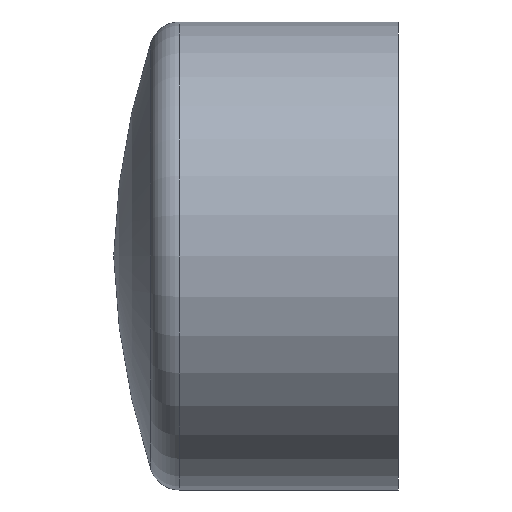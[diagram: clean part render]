
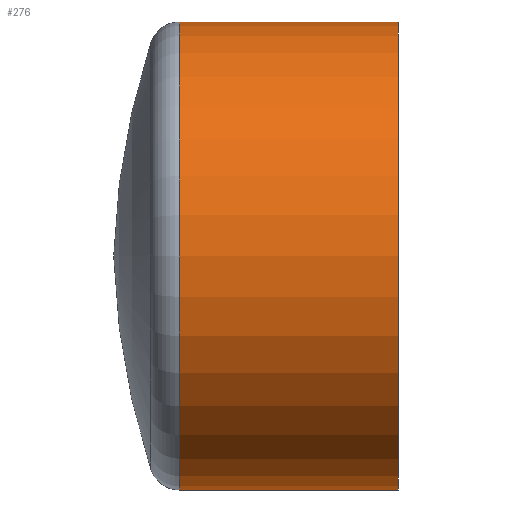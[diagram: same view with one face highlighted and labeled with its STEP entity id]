
A CAD part, left-side view. The second image highlights one B-rep face of the part: STEP entity #276.
In plain terms, the highlighted cylindrical face has radius 15.75 mm (diameter 31.5 mm), a partial arc.
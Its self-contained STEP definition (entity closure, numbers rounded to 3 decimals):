
#10 = ORIENTED_EDGE ( 'NONE', *, *, #108, .T. ) ;
#38 = DIRECTION ( 'NONE',  ( 0., -1., 0. ) ) ;
#45 = CYLINDRICAL_SURFACE ( 'NONE', #270, 15.75 ) ;
#47 = AXIS2_PLACEMENT_3D ( 'NONE', #374, #192, #279 ) ;
#48 = LINE ( 'NONE', #284, #285 ) ;
#76 = FACE_OUTER_BOUND ( 'NONE', #377, .T. ) ;
#108 = EDGE_CURVE ( 'NONE', #195, #152, #249, .T. ) ;
#121 = CIRCLE ( 'NONE', #47, 15.75 ) ;
#125 = CARTESIAN_POINT ( 'NONE',  ( 0., 14.746, 15.75 ) ) ;
#144 = CIRCLE ( 'NONE', #251, 15.75 ) ;
#152 = VERTEX_POINT ( 'NONE', #332 ) ;
#163 = ORIENTED_EDGE ( 'NONE', *, *, #349, .F. ) ;
#166 = DIRECTION ( 'NONE',  ( 0., -1., 0. ) ) ;
#188 = VECTOR ( 'NONE', #38, 1000. ) ;
#192 = DIRECTION ( 'NONE',  ( 0., -1., 0. ) ) ;
#195 = VERTEX_POINT ( 'NONE', #331 ) ;
#227 = DIRECTION ( 'NONE',  ( 0., 0., 1. ) ) ;
#245 = DIRECTION ( 'NONE',  ( 0., -1., 0. ) ) ;
#249 = LINE ( 'NONE', #271, #188 ) ;
#251 = AXIS2_PLACEMENT_3D ( 'NONE', #347, #166, #227 ) ;
#269 = VERTEX_POINT ( 'NONE', #400 ) ;
#270 = AXIS2_PLACEMENT_3D ( 'NONE', #309, #245, #339 ) ;
#271 = CARTESIAN_POINT ( 'NONE',  ( 0., 0., -15.75 ) ) ;
#276 = ADVANCED_FACE ( 'NONE', ( #76 ), #45, .T. ) ;
#279 = DIRECTION ( 'NONE',  ( 0., 0., -1. ) ) ;
#284 = CARTESIAN_POINT ( 'NONE',  ( 0., 0., 15.75 ) ) ;
#285 = VECTOR ( 'NONE', #348, 1000. ) ;
#306 = VERTEX_POINT ( 'NONE', #125 ) ;
#309 = CARTESIAN_POINT ( 'NONE',  ( 0., 0., 0. ) ) ;
#312 = ORIENTED_EDGE ( 'NONE', *, *, #397, .T. ) ;
#319 = ORIENTED_EDGE ( 'NONE', *, *, #375, .F. ) ;
#331 = CARTESIAN_POINT ( 'NONE',  ( 0., 14.746, -15.75 ) ) ;
#332 = CARTESIAN_POINT ( 'NONE',  ( 0., 0., -15.75 ) ) ;
#339 = DIRECTION ( 'NONE',  ( 0., 0., -1. ) ) ;
#347 = CARTESIAN_POINT ( 'NONE',  ( 0., 14.746, 0. ) ) ;
#348 = DIRECTION ( 'NONE',  ( 0., -1., 0. ) ) ;
#349 = EDGE_CURVE ( 'NONE', #269, #152, #121, .T. ) ;
#374 = CARTESIAN_POINT ( 'NONE',  ( 0., 0., 0. ) ) ;
#375 = EDGE_CURVE ( 'NONE', #306, #269, #48, .T. ) ;
#377 = EDGE_LOOP ( 'NONE', ( #319, #312, #10, #163 ) ) ;
#397 = EDGE_CURVE ( 'NONE', #306, #195, #144, .T. ) ;
#400 = CARTESIAN_POINT ( 'NONE',  ( 0., 0., 15.75 ) ) ;
